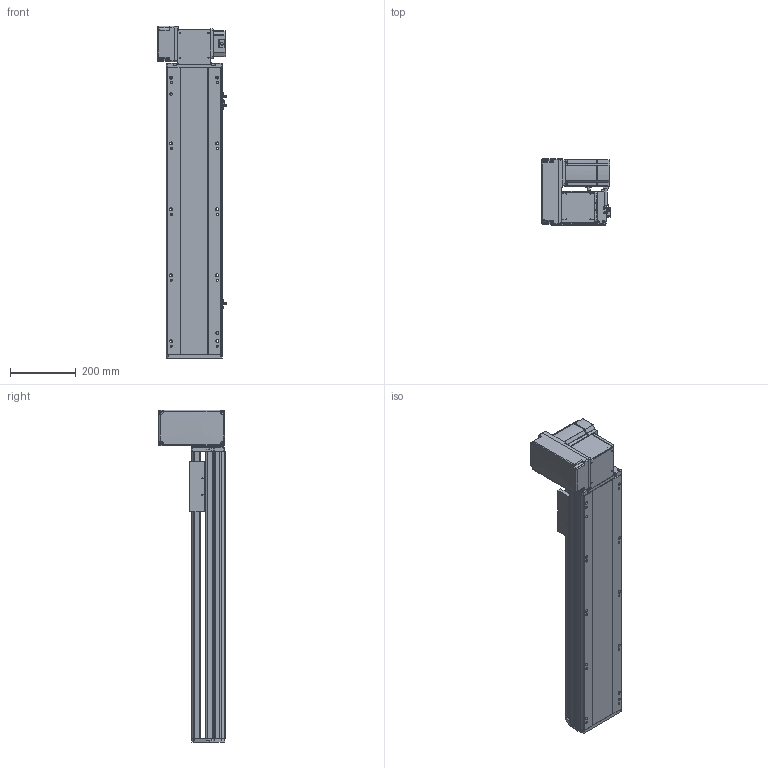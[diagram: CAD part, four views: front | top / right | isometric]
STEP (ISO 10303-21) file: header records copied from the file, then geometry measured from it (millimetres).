
FILE_DESCRIPTION (( 'STEP AP214' ), '1' );
FILE_NAME ('RTB17S-XX-600-LW-M75-C4.STEP', '2025-12-12T01:01:40', ( '' ), ( '' ), 'SwSTEP 2.0', 'SolidWorks 2018', '' );
FILE_SCHEMA (( 'AUTOMOTIVE_DESIGN' ));
Length unit declared in the file: millimetre
Products named in the file (15): RTB17S-LW-々湍釱蚾饜-750W^RTB17S-XX-XX-LW-M75-C4; EE672^RTB17S-XX-XX-LW-M75-C4; RTB22S-GY-008-M75--萇儂啣^RTB17S-LW-々湍釱蚾饜-750W_RTB17S-XX-XX-LW-M75-C4; RTB17S-XX-600-LW-M75-C4; RTB17S-L-007奻裔^RTB17S-XX-XX-LW-M75-C4; RTB22S-GY-005P^RTB17S-LW-々湍釱蚾饜-750W_RTB17S-XX-XX-LW-M75-C4; RTB17-R-011菁釱^RTB17S-XX-XX-LW-M75-C4; RTB17S-L-014-T20-P75--々湍釱^RTB17S-LW-々湍釱蚾饜-750W_RTB17S-XX-XX-LW-M75-C4; RTB17S-賑釱^RTB17S-XX-XX-LW-M75-C4; RTB17S-L-001-耜醱啣^RTB17S-XX-XX-LW-M75-C4; RTB22S-GY-017P^RTB17S-LW-々湍釱蚾饜-750W_RTB17S-XX-XX-LW-M75-C4; 750W萇儂^RTB17S-XX-XX-LW-M75-C4; RTH13-BL-012覜茼え俋离^RTB17S-賑釱_RTB17S-XX-XX-LW-M75-C4; RTB17S-L-004-賑釱^RTB17S-賑釱_RTB17S-XX-XX-LW-M75-C4; RTB22S-GY-018P^RTB17S-LW-々湍釱蚾饜-750W_RTB17S-XX-XX-LW-M75-C4
Assembly tree (17 placements, depth 3):
  RTB17S-XX-600-LW-M75-C4
    RTB17-R-011菁釱^RTB17S-XX-XX-LW-M75-C4
    EE672^RTB17S-XX-XX-LW-M75-C4  x3
    RTB17S-L-001-耜醱啣^RTB17S-XX-XX-LW-M75-C4
    RTB17S-賑釱^RTB17S-XX-XX-LW-M75-C4
      RTB17S-L-004-賑釱^RTB17S-賑釱_RTB17S-XX-XX-LW-M75-C4
      RTH13-BL-012覜茼え俋离^RTB17S-賑釱_RTB17S-XX-XX-LW-M75-C4
    RTB17S-L-007奻裔^RTB17S-XX-XX-LW-M75-C4
    750W萇儂^RTB17S-XX-XX-LW-M75-C4
    RTB17S-LW-々湍釱蚾饜-750W^RTB17S-XX-XX-LW-M75-C4
      RTB17S-L-014-T20-P75--々湍釱^RTB17S-LW-々湍釱蚾饜-750W_RTB17S-XX-XX-LW-M75-C4
      RTB22S-GY-005P^RTB17S-LW-々湍釱蚾饜-750W_RTB17S-XX-XX-LW-M75-C4
      RTB22S-GY-017P^RTB17S-LW-々湍釱蚾饜-750W_RTB17S-XX-XX-LW-M75-C4  x2
      RTB22S-GY-008-M75--萇儂啣^RTB17S-LW-々湍釱蚾饜-750W_RTB17S-XX-XX-LW-M75-C4
      RTB22S-GY-018P^RTB17S-LW-々湍釱蚾饜-750W_RTB17S-XX-XX-LW-M75-C4
Bounding box: 210.4 x 201.5 x 1007.5 mm (x, y, z)
Volume: 9703296.7 mm3; surface area: 1578688.1 mm2
Topology: 17 solids, 17 shells, 2057 faces, 5674 edges, 3662 vertices
Faces by surface type: plane 966, cylinder 675, bspline 294, cone 110, sphere 8, torus 4
Entity records: 56566 total; most frequent: CARTESIAN_POINT 16538, ORIENTED_EDGE 8192, DIRECTION 7682, EDGE_CURVE 4096, AXIS2_PLACEMENT_3D 2682, VERTEX_POINT 2666, VECTOR 2318, LINE 2318
